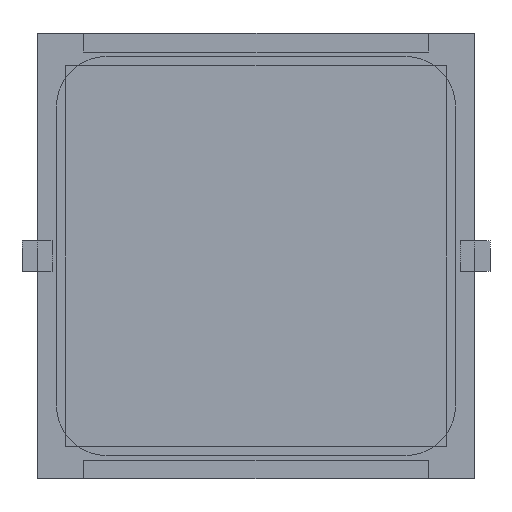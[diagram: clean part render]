
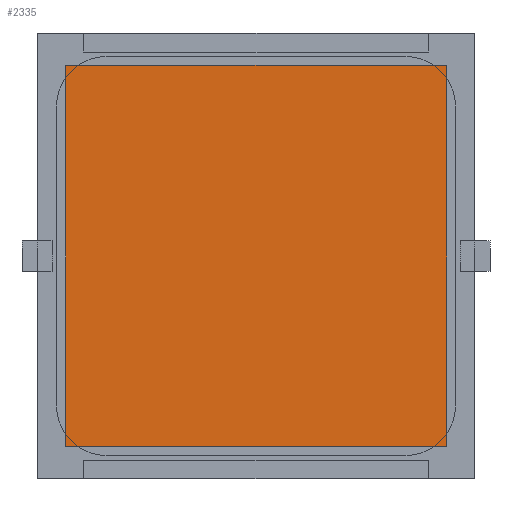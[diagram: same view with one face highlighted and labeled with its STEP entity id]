
A CAD part, front view. The second image highlights one B-rep face of the part: STEP entity #2335.
In plain terms, the highlighted planar face has unit normal (0, -1, 0).
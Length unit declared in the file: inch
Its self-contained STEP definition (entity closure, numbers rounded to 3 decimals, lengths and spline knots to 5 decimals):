
#62 = VERTEX_POINT ( 'NONE', #612 ) ;
#69 = VERTEX_POINT ( 'NONE', #2549 ) ;
#172 = CARTESIAN_POINT ( 'NONE',  ( 0.5, -0.005, -0.5 ) ) ;
#519 = CARTESIAN_POINT ( 'NONE',  ( -0.5, -0.005, -0.5 ) ) ;
#612 = CARTESIAN_POINT ( 'NONE',  ( 0.5, -0.005, 0.5 ) ) ;
#782 = LINE ( 'NONE', #1271, #6936 ) ;
#936 = CARTESIAN_POINT ( 'NONE',  ( -0.5, -0.005, 0.5 ) ) ;
#1271 = CARTESIAN_POINT ( 'NONE',  ( -0.5, -0.005, -0.5 ) ) ;
#1564 = DIRECTION ( 'NONE',  ( 1., 0., 0. ) ) ;
#1575 = ORIENTED_EDGE ( 'NONE', *, *, #7424, .F. ) ;
#1585 = ORIENTED_EDGE ( 'NONE', *, *, #4251, .F. ) ;
#2335 = ADVANCED_FACE ( 'NONE', ( #6613 ), #6333, .F. ) ;
#2549 = CARTESIAN_POINT ( 'NONE',  ( 0.5, -0.005, -0.5 ) ) ;
#2559 = LINE ( 'NONE', #172, #2906 ) ;
#2906 = VECTOR ( 'NONE', #3786, 39.37008 ) ;
#2924 = CARTESIAN_POINT ( 'NONE',  ( -0.5, -0.005, -0.5 ) ) ;
#3308 = AXIS2_PLACEMENT_3D ( 'NONE', #5742, #7409, #6838 ) ;
#3542 = LINE ( 'NONE', #2924, #5627 ) ;
#3786 = DIRECTION ( 'NONE',  ( 0., 0., -1. ) ) ;
#3963 = LINE ( 'NONE', #936, #4229 ) ;
#4218 = DIRECTION ( 'NONE',  ( -1., 0., 0. ) ) ;
#4229 = VECTOR ( 'NONE', #1564, 39.37008 ) ;
#4251 = EDGE_CURVE ( 'NONE', #4873, #62, #3963, .T. ) ;
#4449 = ORIENTED_EDGE ( 'NONE', *, *, #5375, .F. ) ;
#4873 = VERTEX_POINT ( 'NONE', #5107 ) ;
#5013 = DIRECTION ( 'NONE',  ( 0., 0., 1. ) ) ;
#5107 = CARTESIAN_POINT ( 'NONE',  ( -0.5, -0.005, 0.5 ) ) ;
#5375 = EDGE_CURVE ( 'NONE', #62, #69, #2559, .T. ) ;
#5627 = VECTOR ( 'NONE', #4218, 39.37008 ) ;
#5689 = VERTEX_POINT ( 'NONE', #519 ) ;
#5742 = CARTESIAN_POINT ( 'NONE',  ( -0.5, -0.005, 0.5 ) ) ;
#6333 = PLANE ( 'NONE',  #3308 ) ;
#6613 = FACE_OUTER_BOUND ( 'NONE', #7728, .T. ) ;
#6838 = DIRECTION ( 'NONE',  ( 0., 0., 1. ) ) ;
#6936 = VECTOR ( 'NONE', #5013, 39.37008 ) ;
#7138 = ORIENTED_EDGE ( 'NONE', *, *, #7610, .F. ) ;
#7409 = DIRECTION ( 'NONE',  ( 0., 1., 0. ) ) ;
#7424 = EDGE_CURVE ( 'NONE', #69, #5689, #3542, .T. ) ;
#7610 = EDGE_CURVE ( 'NONE', #5689, #4873, #782, .T. ) ;
#7728 = EDGE_LOOP ( 'NONE', ( #7138, #1575, #4449, #1585 ) ) ;
